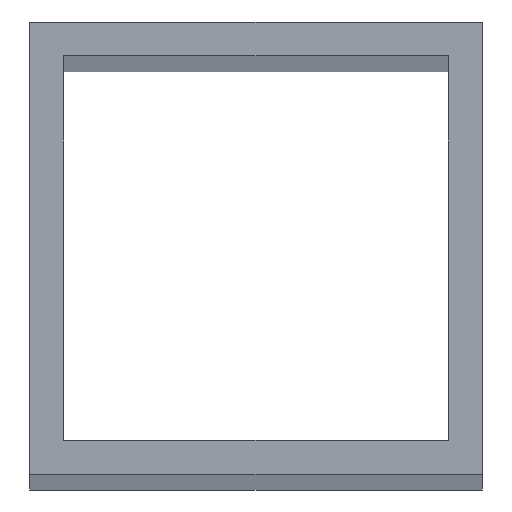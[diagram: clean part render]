
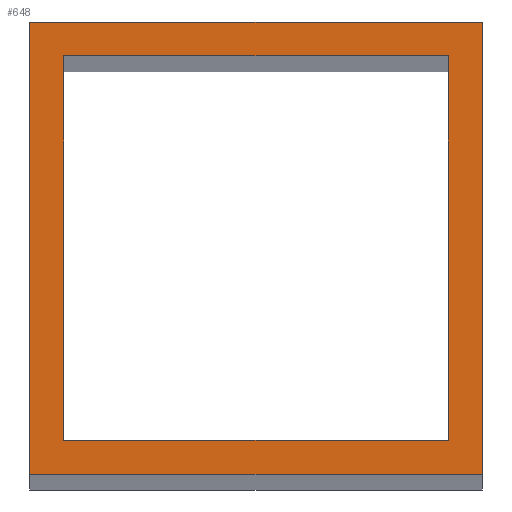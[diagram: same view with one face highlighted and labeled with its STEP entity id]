
A CAD part, top view. The second image highlights one B-rep face of the part: STEP entity #648.
In plain terms, the highlighted planar face has unit normal (0, 0, 1).
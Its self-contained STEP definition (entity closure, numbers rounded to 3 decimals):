
#24 = VERTEX_POINT('',#25);
#25 = CARTESIAN_POINT('',(-20.,-20.,800.));
#32 = PLANE('',#33);
#33 = AXIS2_PLACEMENT_3D('',#34,#35,#36);
#34 = CARTESIAN_POINT('',(-20.,-20.,0.));
#35 = DIRECTION('',(0.,1.,0.));
#36 = DIRECTION('',(1.,0.,0.));
#44 = PLANE('',#45);
#45 = AXIS2_PLACEMENT_3D('',#46,#47,#48);
#46 = CARTESIAN_POINT('',(-20.,20.,0.));
#47 = DIRECTION('',(1.,0.,-0.));
#48 = DIRECTION('',(0.,-1.,0.));
#56 = EDGE_CURVE('',#24,#57,#59,.T.);
#57 = VERTEX_POINT('',#58);
#58 = CARTESIAN_POINT('',(20.,-20.,800.));
#59 = SURFACE_CURVE('',#60,(#64,#71),.PCURVE_S1.);
#60 = LINE('',#61,#62);
#61 = CARTESIAN_POINT('',(-20.,-20.,800.));
#62 = VECTOR('',#63,1.);
#63 = DIRECTION('',(1.,0.,0.));
#64 = PCURVE('',#32,#65);
#65 = DEFINITIONAL_REPRESENTATION('',(#66),#70);
#66 = LINE('',#67,#68);
#67 = CARTESIAN_POINT('',(0.,-800.));
#68 = VECTOR('',#69,1.);
#69 = DIRECTION('',(1.,0.));
#70 = ( GEOMETRIC_REPRESENTATION_CONTEXT(2) 
PARAMETRIC_REPRESENTATION_CONTEXT() REPRESENTATION_CONTEXT('2D SPACE',''
  ) );
#71 = PCURVE('',#72,#77);
#72 = PLANE('',#73);
#73 = AXIS2_PLACEMENT_3D('',#74,#75,#76);
#74 = CARTESIAN_POINT('',(0.,0.,800.));
#75 = DIRECTION('',(0.,0.,1.));
#76 = DIRECTION('',(1.,0.,-0.));
#77 = DEFINITIONAL_REPRESENTATION('',(#78),#82);
#78 = LINE('',#79,#80);
#79 = CARTESIAN_POINT('',(-20.,-20.));
#80 = VECTOR('',#81,1.);
#81 = DIRECTION('',(1.,0.));
#82 = ( GEOMETRIC_REPRESENTATION_CONTEXT(2) 
PARAMETRIC_REPRESENTATION_CONTEXT() REPRESENTATION_CONTEXT('2D SPACE',''
  ) );
#100 = PLANE('',#101);
#101 = AXIS2_PLACEMENT_3D('',#102,#103,#104);
#102 = CARTESIAN_POINT('',(20.,-20.,0.));
#103 = DIRECTION('',(-1.,0.,0.));
#104 = DIRECTION('',(0.,1.,0.));
#142 = EDGE_CURVE('',#57,#143,#145,.T.);
#143 = VERTEX_POINT('',#144);
#144 = CARTESIAN_POINT('',(20.,20.,800.));
#145 = SURFACE_CURVE('',#146,(#150,#157),.PCURVE_S1.);
#146 = LINE('',#147,#148);
#147 = CARTESIAN_POINT('',(20.,-20.,800.));
#148 = VECTOR('',#149,1.);
#149 = DIRECTION('',(0.,1.,0.));
#150 = PCURVE('',#100,#151);
#151 = DEFINITIONAL_REPRESENTATION('',(#152),#156);
#152 = LINE('',#153,#154);
#153 = CARTESIAN_POINT('',(0.,-800.));
#154 = VECTOR('',#155,1.);
#155 = DIRECTION('',(1.,0.));
#156 = ( GEOMETRIC_REPRESENTATION_CONTEXT(2) 
PARAMETRIC_REPRESENTATION_CONTEXT() REPRESENTATION_CONTEXT('2D SPACE',''
  ) );
#157 = PCURVE('',#72,#158);
#158 = DEFINITIONAL_REPRESENTATION('',(#159),#163);
#159 = LINE('',#160,#161);
#160 = CARTESIAN_POINT('',(20.,-20.));
#161 = VECTOR('',#162,1.);
#162 = DIRECTION('',(0.,1.));
#163 = ( GEOMETRIC_REPRESENTATION_CONTEXT(2) 
PARAMETRIC_REPRESENTATION_CONTEXT() REPRESENTATION_CONTEXT('2D SPACE',''
  ) );
#181 = PLANE('',#182);
#182 = AXIS2_PLACEMENT_3D('',#183,#184,#185);
#183 = CARTESIAN_POINT('',(20.,20.,0.));
#184 = DIRECTION('',(0.,-1.,0.));
#185 = DIRECTION('',(-1.,0.,0.));
#218 = EDGE_CURVE('',#143,#219,#221,.T.);
#219 = VERTEX_POINT('',#220);
#220 = CARTESIAN_POINT('',(-20.,20.,800.));
#221 = SURFACE_CURVE('',#222,(#226,#233),.PCURVE_S1.);
#222 = LINE('',#223,#224);
#223 = CARTESIAN_POINT('',(20.,20.,800.));
#224 = VECTOR('',#225,1.);
#225 = DIRECTION('',(-1.,0.,0.));
#226 = PCURVE('',#181,#227);
#227 = DEFINITIONAL_REPRESENTATION('',(#228),#232);
#228 = LINE('',#229,#230);
#229 = CARTESIAN_POINT('',(0.,-800.));
#230 = VECTOR('',#231,1.);
#231 = DIRECTION('',(1.,0.));
#232 = ( GEOMETRIC_REPRESENTATION_CONTEXT(2) 
PARAMETRIC_REPRESENTATION_CONTEXT() REPRESENTATION_CONTEXT('2D SPACE',''
  ) );
#233 = PCURVE('',#72,#234);
#234 = DEFINITIONAL_REPRESENTATION('',(#235),#239);
#235 = LINE('',#236,#237);
#236 = CARTESIAN_POINT('',(20.,20.));
#237 = VECTOR('',#238,1.);
#238 = DIRECTION('',(-1.,0.));
#239 = ( GEOMETRIC_REPRESENTATION_CONTEXT(2) 
PARAMETRIC_REPRESENTATION_CONTEXT() REPRESENTATION_CONTEXT('2D SPACE',''
  ) );
#289 = EDGE_CURVE('',#219,#24,#290,.T.);
#290 = SURFACE_CURVE('',#291,(#295,#302),.PCURVE_S1.);
#291 = LINE('',#292,#293);
#292 = CARTESIAN_POINT('',(-20.,20.,800.));
#293 = VECTOR('',#294,1.);
#294 = DIRECTION('',(0.,-1.,0.));
#295 = PCURVE('',#44,#296);
#296 = DEFINITIONAL_REPRESENTATION('',(#297),#301);
#297 = LINE('',#298,#299);
#298 = CARTESIAN_POINT('',(0.,-800.));
#299 = VECTOR('',#300,1.);
#300 = DIRECTION('',(1.,0.));
#301 = ( GEOMETRIC_REPRESENTATION_CONTEXT(2) 
PARAMETRIC_REPRESENTATION_CONTEXT() REPRESENTATION_CONTEXT('2D SPACE',''
  ) );
#302 = PCURVE('',#72,#303);
#303 = DEFINITIONAL_REPRESENTATION('',(#304),#308);
#304 = LINE('',#305,#306);
#305 = CARTESIAN_POINT('',(-20.,20.));
#306 = VECTOR('',#307,1.);
#307 = DIRECTION('',(0.,-1.));
#308 = ( GEOMETRIC_REPRESENTATION_CONTEXT(2) 
PARAMETRIC_REPRESENTATION_CONTEXT() REPRESENTATION_CONTEXT('2D SPACE',''
  ) );
#338 = VERTEX_POINT('',#339);
#339 = CARTESIAN_POINT('',(-17.,-17.,800.));
#346 = PLANE('',#347);
#347 = AXIS2_PLACEMENT_3D('',#348,#349,#350);
#348 = CARTESIAN_POINT('',(-17.,-17.,0.));
#349 = DIRECTION('',(0.,1.,0.));
#350 = DIRECTION('',(1.,0.,0.));
#358 = PLANE('',#359);
#359 = AXIS2_PLACEMENT_3D('',#360,#361,#362);
#360 = CARTESIAN_POINT('',(-17.,17.,0.));
#361 = DIRECTION('',(1.,0.,-0.));
#362 = DIRECTION('',(0.,-1.,0.));
#370 = EDGE_CURVE('',#338,#371,#373,.T.);
#371 = VERTEX_POINT('',#372);
#372 = CARTESIAN_POINT('',(17.,-17.,800.));
#373 = SURFACE_CURVE('',#374,(#378,#385),.PCURVE_S1.);
#374 = LINE('',#375,#376);
#375 = CARTESIAN_POINT('',(-17.,-17.,800.));
#376 = VECTOR('',#377,1.);
#377 = DIRECTION('',(1.,0.,0.));
#378 = PCURVE('',#346,#379);
#379 = DEFINITIONAL_REPRESENTATION('',(#380),#384);
#380 = LINE('',#381,#382);
#381 = CARTESIAN_POINT('',(0.,-800.));
#382 = VECTOR('',#383,1.);
#383 = DIRECTION('',(1.,0.));
#384 = ( GEOMETRIC_REPRESENTATION_CONTEXT(2) 
PARAMETRIC_REPRESENTATION_CONTEXT() REPRESENTATION_CONTEXT('2D SPACE',''
  ) );
#385 = PCURVE('',#72,#386);
#386 = DEFINITIONAL_REPRESENTATION('',(#387),#391);
#387 = LINE('',#388,#389);
#388 = CARTESIAN_POINT('',(-17.,-17.));
#389 = VECTOR('',#390,1.);
#390 = DIRECTION('',(1.,0.));
#391 = ( GEOMETRIC_REPRESENTATION_CONTEXT(2) 
PARAMETRIC_REPRESENTATION_CONTEXT() REPRESENTATION_CONTEXT('2D SPACE',''
  ) );
#409 = PLANE('',#410);
#410 = AXIS2_PLACEMENT_3D('',#411,#412,#413);
#411 = CARTESIAN_POINT('',(17.,-17.,0.));
#412 = DIRECTION('',(-1.,0.,0.));
#413 = DIRECTION('',(0.,1.,0.));
#446 = EDGE_CURVE('',#371,#447,#449,.T.);
#447 = VERTEX_POINT('',#448);
#448 = CARTESIAN_POINT('',(17.,17.,800.));
#449 = SURFACE_CURVE('',#450,(#454,#461),.PCURVE_S1.);
#450 = LINE('',#451,#452);
#451 = CARTESIAN_POINT('',(17.,-17.,800.));
#452 = VECTOR('',#453,1.);
#453 = DIRECTION('',(0.,1.,0.));
#454 = PCURVE('',#409,#455);
#455 = DEFINITIONAL_REPRESENTATION('',(#456),#460);
#456 = LINE('',#457,#458);
#457 = CARTESIAN_POINT('',(0.,-800.));
#458 = VECTOR('',#459,1.);
#459 = DIRECTION('',(1.,0.));
#460 = ( GEOMETRIC_REPRESENTATION_CONTEXT(2) 
PARAMETRIC_REPRESENTATION_CONTEXT() REPRESENTATION_CONTEXT('2D SPACE',''
  ) );
#461 = PCURVE('',#72,#462);
#462 = DEFINITIONAL_REPRESENTATION('',(#463),#467);
#463 = LINE('',#464,#465);
#464 = CARTESIAN_POINT('',(17.,-17.));
#465 = VECTOR('',#466,1.);
#466 = DIRECTION('',(0.,1.));
#467 = ( GEOMETRIC_REPRESENTATION_CONTEXT(2) 
PARAMETRIC_REPRESENTATION_CONTEXT() REPRESENTATION_CONTEXT('2D SPACE',''
  ) );
#485 = PLANE('',#486);
#486 = AXIS2_PLACEMENT_3D('',#487,#488,#489);
#487 = CARTESIAN_POINT('',(17.,17.,0.));
#488 = DIRECTION('',(0.,-1.,0.));
#489 = DIRECTION('',(-1.,0.,0.));
#522 = EDGE_CURVE('',#447,#523,#525,.T.);
#523 = VERTEX_POINT('',#524);
#524 = CARTESIAN_POINT('',(-17.,17.,800.));
#525 = SURFACE_CURVE('',#526,(#530,#537),.PCURVE_S1.);
#526 = LINE('',#527,#528);
#527 = CARTESIAN_POINT('',(17.,17.,800.));
#528 = VECTOR('',#529,1.);
#529 = DIRECTION('',(-1.,0.,0.));
#530 = PCURVE('',#485,#531);
#531 = DEFINITIONAL_REPRESENTATION('',(#532),#536);
#532 = LINE('',#533,#534);
#533 = CARTESIAN_POINT('',(0.,-800.));
#534 = VECTOR('',#535,1.);
#535 = DIRECTION('',(1.,0.));
#536 = ( GEOMETRIC_REPRESENTATION_CONTEXT(2) 
PARAMETRIC_REPRESENTATION_CONTEXT() REPRESENTATION_CONTEXT('2D SPACE',''
  ) );
#537 = PCURVE('',#72,#538);
#538 = DEFINITIONAL_REPRESENTATION('',(#539),#543);
#539 = LINE('',#540,#541);
#540 = CARTESIAN_POINT('',(17.,17.));
#541 = VECTOR('',#542,1.);
#542 = DIRECTION('',(-1.,0.));
#543 = ( GEOMETRIC_REPRESENTATION_CONTEXT(2) 
PARAMETRIC_REPRESENTATION_CONTEXT() REPRESENTATION_CONTEXT('2D SPACE',''
  ) );
#593 = EDGE_CURVE('',#523,#338,#594,.T.);
#594 = SURFACE_CURVE('',#595,(#599,#606),.PCURVE_S1.);
#595 = LINE('',#596,#597);
#596 = CARTESIAN_POINT('',(-17.,17.,800.));
#597 = VECTOR('',#598,1.);
#598 = DIRECTION('',(0.,-1.,0.));
#599 = PCURVE('',#358,#600);
#600 = DEFINITIONAL_REPRESENTATION('',(#601),#605);
#601 = LINE('',#602,#603);
#602 = CARTESIAN_POINT('',(0.,-800.));
#603 = VECTOR('',#604,1.);
#604 = DIRECTION('',(1.,0.));
#605 = ( GEOMETRIC_REPRESENTATION_CONTEXT(2) 
PARAMETRIC_REPRESENTATION_CONTEXT() REPRESENTATION_CONTEXT('2D SPACE',''
  ) );
#606 = PCURVE('',#72,#607);
#607 = DEFINITIONAL_REPRESENTATION('',(#608),#612);
#608 = LINE('',#609,#610);
#609 = CARTESIAN_POINT('',(-17.,17.));
#610 = VECTOR('',#611,1.);
#611 = DIRECTION('',(0.,-1.));
#612 = ( GEOMETRIC_REPRESENTATION_CONTEXT(2) 
PARAMETRIC_REPRESENTATION_CONTEXT() REPRESENTATION_CONTEXT('2D SPACE',''
  ) );
#648 = ADVANCED_FACE('',(#649,#655),#72,.T.);
#649 = FACE_BOUND('',#650,.T.);
#650 = EDGE_LOOP('',(#651,#652,#653,#654));
#651 = ORIENTED_EDGE('',*,*,#56,.T.);
#652 = ORIENTED_EDGE('',*,*,#142,.T.);
#653 = ORIENTED_EDGE('',*,*,#218,.T.);
#654 = ORIENTED_EDGE('',*,*,#289,.T.);
#655 = FACE_BOUND('',#656,.F.);
#656 = EDGE_LOOP('',(#657,#658,#659,#660));
#657 = ORIENTED_EDGE('',*,*,#370,.T.);
#658 = ORIENTED_EDGE('',*,*,#446,.T.);
#659 = ORIENTED_EDGE('',*,*,#522,.T.);
#660 = ORIENTED_EDGE('',*,*,#593,.T.);
